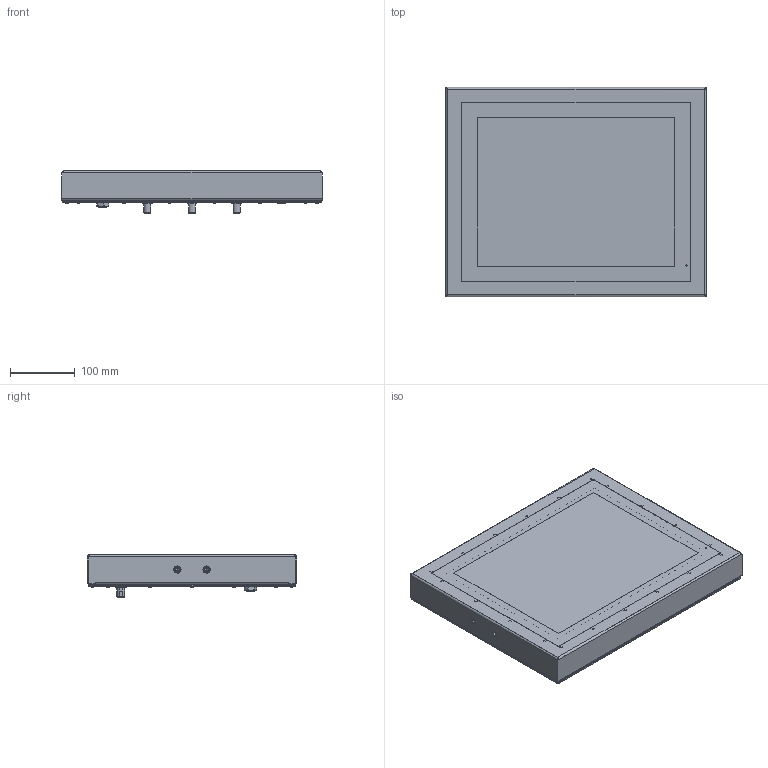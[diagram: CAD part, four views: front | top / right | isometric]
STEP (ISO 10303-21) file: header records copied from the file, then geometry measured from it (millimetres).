
FILE_DESCRIPTION((''),'2;1');
FILE_NAME('SPDP1500-ALL000001_ASM_9_ASM_1_ASM','2025-08-06T15:07:18',('anthony'),(''),'CREO PARAMETRIC BY PTC INC, 2024063','CREO PARAMETRIC BY PTC INC, 2024063','');
FILE_SCHEMA(('CONFIG_CONTROL_DESIGN','SHAPE_APPEARANCE_LAYERS_GROUPS'));
Length unit declared in the file: millimetre
Products named in the file (22): SPD1500-QK_19_1; RTD1501-TP_10_1; BSS-M6-10-00001_4_1; SPDP-BSO-M3-5_1_1; SPDP1500-HG-MIFENGQUAN_11_1; M3-130001_6_1; SPDP1500-QK_ASM_16_ASM_1_ASM; SPD1500-FB_17_1; BS-M4-20001_7_1; 304-M120001_5_1; SPD-1500T-SR2-SRP_14_1; M3-50001_3_1; 16MM0001_2_1; M12-P8A-GWFM12-0-20001_4_1_1; M12-P8A-GWFM12-0-20001_4_2_1; M12-P8A-GWFM12-0-20001_4_ASM_1_ASM; M12-P3A-GWFM12-0-20001_5_1_1; M12-P3A-GWFM12-0-20001_5_2_1; M12-P3A-GWFM12-0-20001_5_ASM_1_ASM; SPDP1500-FB_ASM_17_ASM_1_ASM; ISO7380-1-M3X6-8_8; SPDP1500-ALL000001_ASM_9_ASM_1_ASM
Assembly tree (103 placements, depth 4):
  SPDP1500-ALL000001_ASM_9_ASM_1_ASM
    SPDP1500-QK_ASM_16_ASM_1_ASM
      SPD1500-QK_19_1
      RTD1501-TP_10_1
      BSS-M6-10-00001_4_1  x4
      SPDP-BSO-M3-5_1_1  x22
      SPDP1500-HG-MIFENGQUAN_11_1
      M3-130001_6_1  x20
    SPDP1500-FB_ASM_17_ASM_1_ASM
      SPD1500-FB_17_1
      BS-M4-20001_7_1  x12
      304-M120001_5_1
      SPD-1500T-SR2-SRP_14_1
      M3-50001_3_1  x6
      16MM0001_2_1  x2
      M12-P8A-GWFM12-0-20001_4_ASM_1_ASM  x2
        M12-P8A-GWFM12-0-20001_4_1_1
        M12-P8A-GWFM12-0-20001_4_2_1
      M12-P3A-GWFM12-0-20001_5_ASM_1_ASM
        M12-P3A-GWFM12-0-20001_5_1_1
        M12-P3A-GWFM12-0-20001_5_2_1
    ISO7380-1-M3X6-8_8  x22
Bounding box: 402 x 323 x 65 mm (x, y, z)
Volume: 1180450.9 mm3; surface area: 943964.7 mm2
Topology: 100 solids, 100 shells, 3907 faces, 10283 edges, 6712 vertices
Faces by surface type: plane 2537, cylinder 836, cone 376, sphere 76, torus 68, bspline 14
Entity records: 51228 total; most frequent: CARTESIAN_POINT 8657, DIRECTION 7081, ORIENTED_EDGE 6590, EDGE_CURVE 3295, PRESENTATION_STYLE_ASSIGNMENT 2812, STYLED_ITEM 2762, CURVE_STYLE 2699, AXIS2_PLACEMENT_3D 2450
